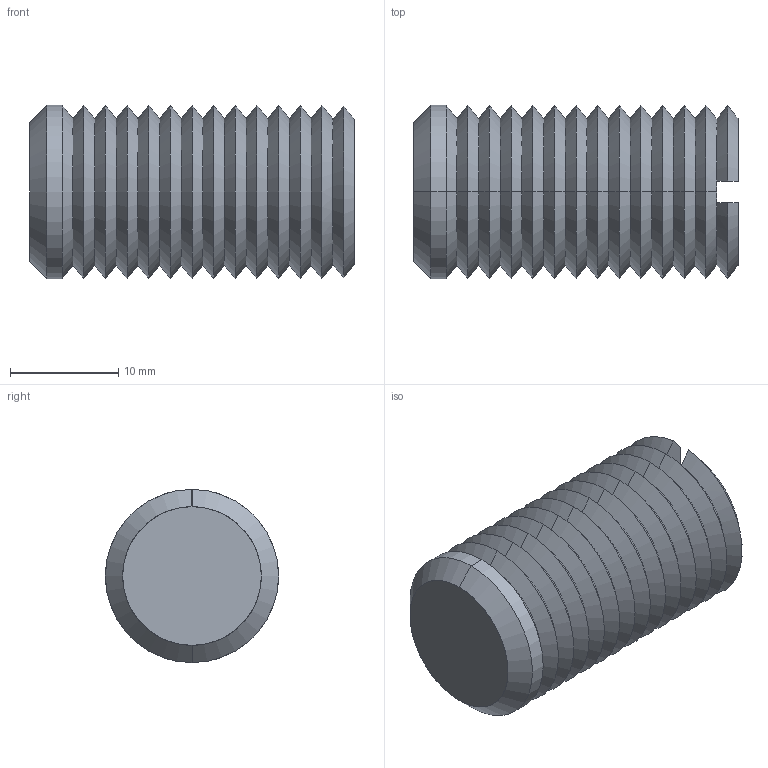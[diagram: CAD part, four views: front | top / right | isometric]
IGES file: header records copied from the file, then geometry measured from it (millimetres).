
Start section: SolidWorks IGES file using analytic representation for surfaces
Global section: file name: C:\Documents and Settings\IANO\Desktop\Temp File\Process pending\EXISTING\34300_v2\34300_v2_20170622_IGES\34300.W0160.igs; native system: SolidWorks 2009; preprocessor: SolidWorks 2009; author: IANO; date: 170622.094336; units: millimetre
Bounding box: 30 x 16 x 16 mm (x, y, z)
Surface area: 2492.2 mm2 (no closed solid volume)
Topology: 0 solids, 0 shells, 64 faces, 320 edges, 320 vertices
Faces by surface type: revolution 58, bspline 6
